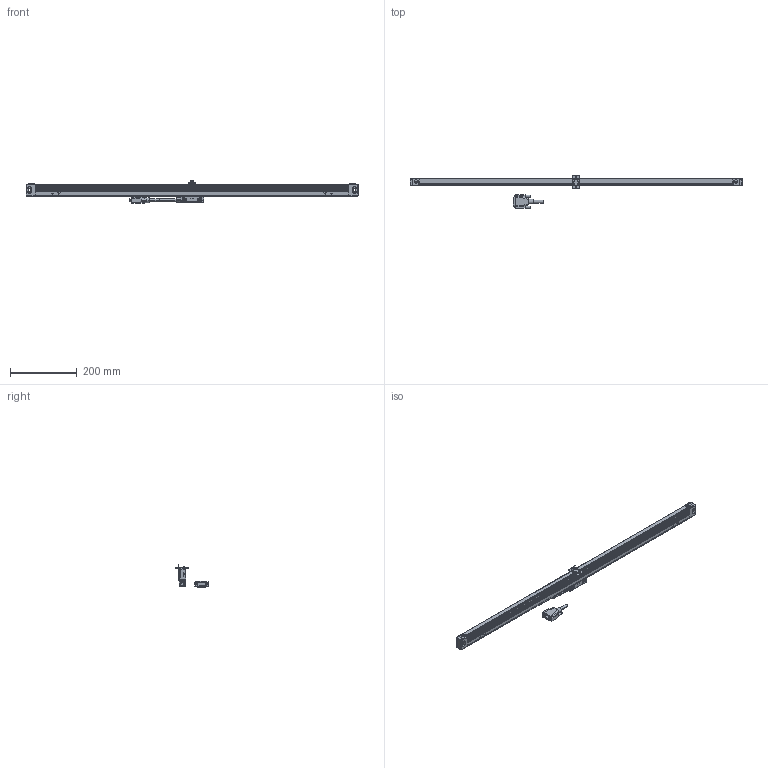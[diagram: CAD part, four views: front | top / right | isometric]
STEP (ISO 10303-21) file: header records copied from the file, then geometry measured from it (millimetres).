
FILE_DESCRIPTION(('Creo Elements/Direct Modeling STEP Export'),'2;1');
FILE_NAME('AT715-800_営業送付.stp','2018-12-20T15:27:32',(''),(''),'Creo Elements/Direct Modeling STEP processor for AP214 (Solid Model)','Creo Elements/Direct Modeling 18.1B 29-Sep-2012 (C) Parametric Technology GmbH','');
FILE_SCHEMA(('AUTOMOTIVE_DESIGN { 1 0 10303 214 1 1 1 1 }'));
Length unit declared in the file: millimetre
Products named in the file (6): Scale_800_2; Scale_800_3; Scale_800_1; Connector; DetectorHead; AT715-800
Assembly tree (5 placements, depth 2):
  AT715-800
    DetectorHead
    Connector
    Scale_800_1
    Scale_800_3
    Scale_800_2
Bounding box: 998 x 99 x 68.35 mm (x, y, z)
Volume: 2162222.6 mm3; surface area: 459042.1 mm2
Topology: 5 solids, 10 shells, 1425 faces, 3729 edges, 2357 vertices
Faces by surface type: plane 891, cylinder 424, cone 44, extrusion 32, torus 18, sphere 12, bspline 4
Entity records: 43367 total; most frequent: CARTESIAN_POINT 8754, ORIENTED_EDGE 7434, DIRECTION 6631, EDGE_CURVE 3717, VECTOR 2411, LINE 2379, VERTEX_POINT 2357, AXIS2_PLACEMENT_3D 2110
